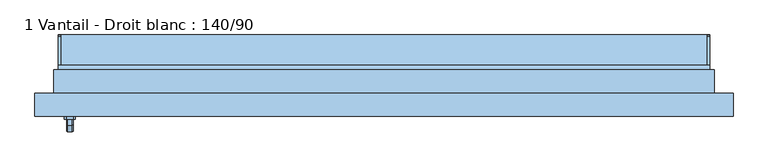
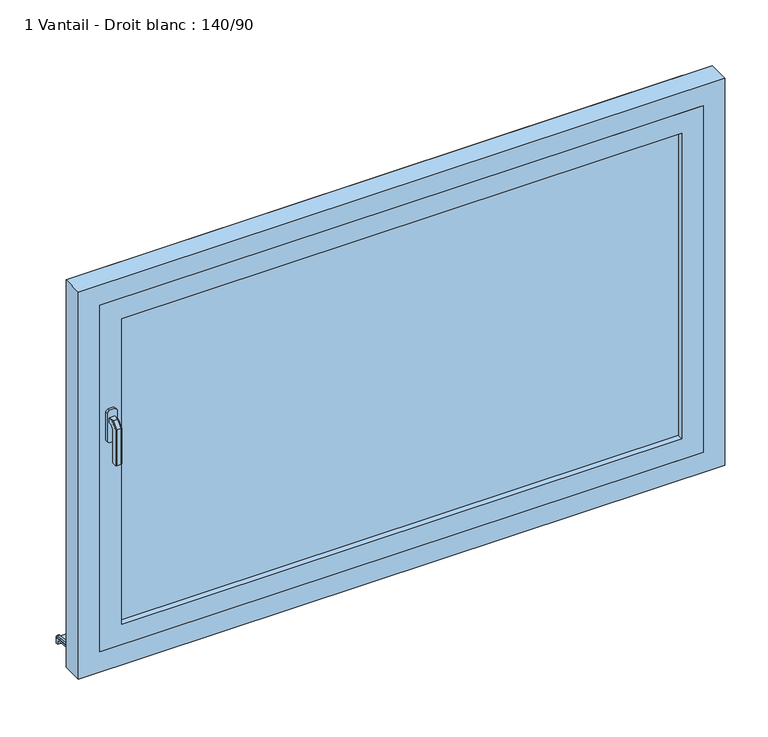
"""IFC4 building model written with IfcOpenShell, lengths in millimetres: window geometry, 1 Vantail - Droit blanc : 140/90."""

from ifc_helpers import new_model, si_unit, point, frame, frame_2d, origin, place, context, project, spatial, polyline, circle_curve, trimmed, segment, composite_curve, outline, extrude, faceted_brep, source, transform, mapped, element, save


def window_1_vantail_droit_blanc_140_90_20fa2057(model_context):
    return source(origin(), model_context, "Body", "SolidModel", [
        faceted_brep([(-669.3539903, -86.0, 1422.0339292), (-667.9660708, -86.0, 1420.6460097), (-667.9660708, -86.0, 1409.3323012), (-669.3323012, -86.0, 1407.9660708), (-680.6676988, -86.0, 1407.9660708), (-682.0339292, -86.0, 1409.3323012), (-682.0339292, -86.0, 1420.6460097), (-680.6460097, -86.0, 1422.0339292), (-669.3539903, -98.9135489, 1422.0339292), (-667.9660708, -98.3386538, 1420.6460097), (-667.9660708, -111.6460097, 1407.3386538), (-667.9660708, -111.6460097, 1320.0), (-667.9660708, -100.3323012, 1320.0), (-667.9660708, -100.3323012, 1402.6523623), (-667.9660708, -93.6523623, 1409.3323012), (-669.3323012, -93.0864511, 1407.9660708), (-680.6676988, -93.0864511, 1407.9660708), (-682.0339292, -93.6523623, 1409.3323012), (-682.0339292, -100.3323012, 1402.6523623), (-682.0339292, -100.3323012, 1320.0), (-682.0339292, -111.6460097, 1320.0), (-682.0339292, -111.6460097, 1407.3386538), (-682.0339292, -98.3386538, 1420.6460097), (-680.6460097, -98.9135489, 1422.0339292), (-669.3539903, -113.0339292, 1407.9135489), (-669.3323012, -98.9660708, 1402.0864511), (-680.6676988, -98.9660708, 1402.0864511), (-680.6460097, -113.0339292, 1407.9135489), (-669.3539903, -113.0339292, 1320.0), (-680.6460097, -113.0339292, 1320.0), (-680.6676988, -98.9660708, 1320.0), (-669.3323012, -98.9660708, 1320.0)], [[[0, 1, 2, 3, 4, 5, 6, 7]], [[1, 0, 8, 9]], [[2, 1, 9, 10, 11, 12, 13, 14]], [[3, 2, 14, 15]], [[4, 3, 15, 16]], [[5, 4, 16, 17]], [[6, 5, 17, 18, 19, 20, 21, 22]], [[7, 6, 22, 23]], [[0, 7, 23, 8]], [[9, 8, 24, 10]], [[15, 14, 13, 25]], [[16, 15, 25, 26]], [[17, 16, 26, 18]], [[23, 22, 21, 27]], [[8, 23, 27, 24]], [[28, 29, 20, 19, 30, 31, 12, 11]], [[10, 24, 28, 11]], [[25, 13, 12, 31]], [[26, 25, 31, 30]], [[18, 26, 30, 19]], [[27, 21, 20, 29]], [[24, 27, 29, 28]]]),
        extrude(outline(polyline([(1440.0, -668.0), (1440.0, -682.0), (1435.0, -687.0), (1365.0, -687.0), (1360.0, -682.0), (1360.0, -668.0), (1365.0, -663.0), (1435.0, -663.0), (1440.0, -668.0)])), frame((0.0, -86.0, 0.0), z_axis=(0.0, 1.0, 0.0), x_axis=(0.0, 0.0, 1.0)), (0.0, 0.0, 1.0), 6.0),
        extrude(outline(polyline([(95.0, 780.2703094), (95.0, 764.7145929), (90.0, 765.2401141), (90.0, 775.5406188), (0.0, 785.0), (0.0, 800.0), (5.0, 800.0), (5.0, 789.7296906), (95.0, 780.2703094)])), frame((-700.0, 0.0, 0.0), z_axis=(1.0, 0.0, 0.0), x_axis=(0.0, 1.0, 0.0)), (0.0, 0.0, 1.0), 1400.0),
        extrude(outline(composite_curve([segment(polyline([(95.0, 780.2703094), (5.0, 789.7296906), (5.0, 794.757232), (91.4181139, 785.6743222)]), True, "CONTINUOUS"), segment(trimmed(circle_curve(frame_2d((91.0, 781.6962346)), 4.0), [point((91.4181139, 785.6743222))], [point((95.0, 781.6962346))], False, "CARTESIAN"), True, "CONTINUOUS"), segment(polyline([(95.0, 781.6962346), (95.0, 780.2703094)]), True, "CONTINUOUS")], self_intersect=False)), frame((-700.0, 0.0, 0.0), z_axis=(1.0, 0.0, 0.0), x_axis=(0.0, 1.0, 0.0)), (0.0, 0.0, 1.0), 5.0),
        extrude(outline(composite_curve([segment(polyline([(95.0, 780.2703094), (5.0, 789.7296906), (5.0, 794.757232), (91.4181139, 785.6743222)]), True, "CONTINUOUS"), segment(trimmed(circle_curve(frame_2d((91.0, 781.6962346)), 4.0), [point((91.4181139, 785.6743222))], [point((95.0, 781.6962346))], False, "CARTESIAN"), True, "CONTINUOUS"), segment(polyline([(95.0, 781.6962346), (95.0, 780.2703094)]), True, "CONTINUOUS")], self_intersect=False)), frame((695.0, 0.0, 0.0), z_axis=(1.0, 0.0, 0.0), x_axis=(0.0, 1.0, 0.0)), (0.0, 0.0, 1.0), 5.0),
        extrude(outline(polyline([(-650.0, -54.0), (650.0, -54.0), (650.0, -66.0), (-650.0, -66.0), (-650.0, -54.0)])), frame((0.0, 0.0, 900.0), z_axis=(0.0, 0.0, 1.0), x_axis=(1.0, 0.0, 0.0)), (0.0, 0.0, 1.0), 750.0),
        extrude(outline(polyline([(850.0, 700.0), (1700.0, 700.0), (1700.0, -700.0), (850.0, -700.0), (850.0, 700.0)]), holes=[polyline([(900.0, -650.0), (1650.0, -650.0), (1650.0, 650.0), (900.0, 650.0), (900.0, -650.0)])]), frame((0.0, -80.0, 0.0), z_axis=(0.0, 1.0, 0.0), x_axis=(0.0, 0.0, 1.0)), (0.0, 0.0, 1.0), 40.0),
        faceted_brep([(-750.0, -80.0, 800.0), (-750.0, -30.0, 800.0), (-700.0, -30.0, 800.0), (-700.0, 20.0, 800.0), (700.0, 20.0, 800.0), (700.0, -30.0, 800.0), (750.0, -30.0, 800.0), (750.0, -80.0, 800.0), (-750.0, -80.0, 1750.0), (-750.0, -30.0, 1750.0), (750.0, -30.0, 1750.0), (700.0, -30.0, 839.3761425), (-700.0, -30.0, 839.3761425), (-685.0, -30.0, 1685.0), (-685.0, -30.0, 865.0), (685.0, -30.0, 865.0), (685.0, -30.0, 1685.0), (-700.0, 30.0, 823.2991909), (-700.0, 30.0, 795.0), (-700.0, 20.0, 795.0), (700.0, 20.0, 795.0), (700.0, 30.0, 795.0), (700.0, 30.0, 823.2991909), (750.0, -80.0, 1750.0), (700.0, -80.0, 1700.0), (700.0, -80.0, 850.0), (-700.0, -80.0, 850.0), (-700.0, -80.0, 1700.0), (-685.0, -40.0, 1685.0), (-685.0, -40.0, 865.0), (685.0, -40.0, 865.0), (685.0, -40.0, 1685.0), (700.0, -40.0, 1700.0), (-700.0, -40.0, 1700.0), (-700.0, -40.0, 850.0), (700.0, -40.0, 850.0)], [[[0, 1, 2, 3, 4, 5, 6, 7]], [[1, 0, 8, 9]], [[1, 9, 10, 6, 5, 11, 12, 2], [13, 14, 15, 16]], [[12, 17, 18, 19, 3, 2]], [[3, 19, 20, 4]], [[4, 20, 21, 22, 11, 5]], [[6, 10, 23, 7]], [[0, 7, 23, 8], [24, 25, 26, 27]], [[13, 28, 29, 14]], [[29, 30, 15, 14]], [[31, 16, 15, 30]], [[17, 12, 11, 22]], [[32, 33, 34, 35], [28, 31, 30, 29]], [[34, 33, 27, 26]], [[26, 25, 35, 34]], [[24, 32, 35, 25]], [[18, 17, 22, 21]], [[19, 18, 21, 20]], [[13, 16, 31, 28]], [[33, 32, 24, 27]], [[10, 9, 8, 23]]]),
        extrude(outline(polyline([(800.0, -710.0), (800.0, -700.0), (1700.0, -700.0), (1700.0, 700.0), (800.0, 700.0), (800.0, 710.0), (1710.0, 710.0), (1710.0, -710.0), (800.0, -710.0)])), frame((0.0, -30.0, 0.0), z_axis=(0.0, 1.0, 0.0), x_axis=(0.0, 0.0, 1.0)), (0.0, 0.0, 1.0), 50.0),
    ])


if __name__ == "__main__":
    model = new_model("IFC4")
    model_context = context("Model", 3, world=origin())
    ifc_project = project(units=[si_unit("LENGTHUNIT", "METRE", prefix="MILLI")], contexts=[model_context])
    site = spatial("IfcSite", under=ifc_project)
    building = spatial("IfcBuilding", under=site)
    placement = place(None, origin())
    window_1_vantail_droit_blanc_140_90_shape = window_1_vantail_droit_blanc_140_90_20fa2057(model_context)
    element("IfcWindow", 1, ObjectType="1 Vantail - Droit blanc : 140/90", at=placement, inside=building, context=model_context, shape_type="MappedRepresentation", body=[
        mapped(window_1_vantail_droit_blanc_140_90_shape, transform((0.0, 0.0, 0.0), x_axis=(1.0, 0.0, 0.0), y_axis=(0.0, 1.0, 0.0), z_axis=(0.0, 0.0, 1.0))),
    ])
    save(model, "model.ifc")
